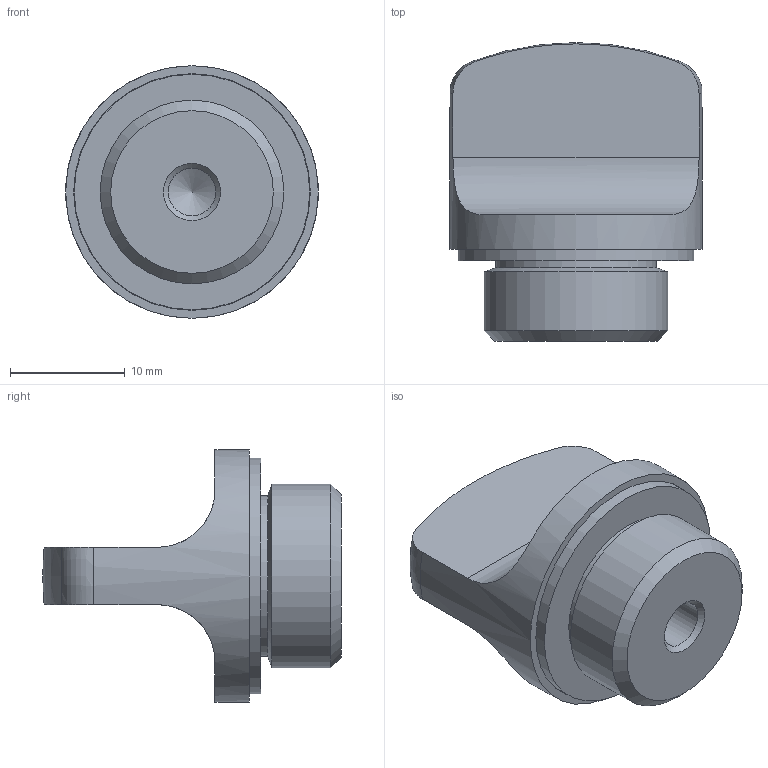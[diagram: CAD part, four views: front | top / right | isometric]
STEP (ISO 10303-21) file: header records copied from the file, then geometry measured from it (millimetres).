
FILE_DESCRIPTION( ( 'STEP AP203' ), '1' );
FILE_NAME( 'C:/Temp/Ganter_Step_05_03_2020/data/3_5/gn441/Threaded plug GN 441-22-M16x1,5-1-SW.stp', '2020-03-12T13:34:47', ( 'License CC BY-ND 4.0' ), ( 'CADENAS' ), ' ', 'PARTsolutions', ' ' );
FILE_SCHEMA( ( 'CONFIG_CONTROL_DESIGN' ) );
Length unit declared in the file: millimetre
Products named in the file (1): _Threaded plug GN 441-22-M16x1,5-1-SW
Bounding box: 22 x 26 x 22 mm (x, y, z)
Volume: 4345.3 mm3; surface area: 2674.1 mm2
Topology: 1 solids, 1 shells, 29 faces, 63 edges, 41 vertices
Faces by surface type: cylinder 11, plane 11, cone 4, torus 2, sphere 1
Full cylindrical faces by diameter (mm): 4.134 x1, 14 x1, 14.5 x1, 16 x1, 18.5 x1, 18.6 x1, 20.5 x1, 20.6 x1, 22 x1
Entity records: 820 total; most frequent: CARTESIAN_POINT 218, DIRECTION 122, ORIENTED_EDGE 86, AXIS2_PLACEMENT_3D 57, EDGE_LOOP 48, EDGE_CURVE 43, FACE_OUTER_BOUND 38, VERTEX_POINT 37
